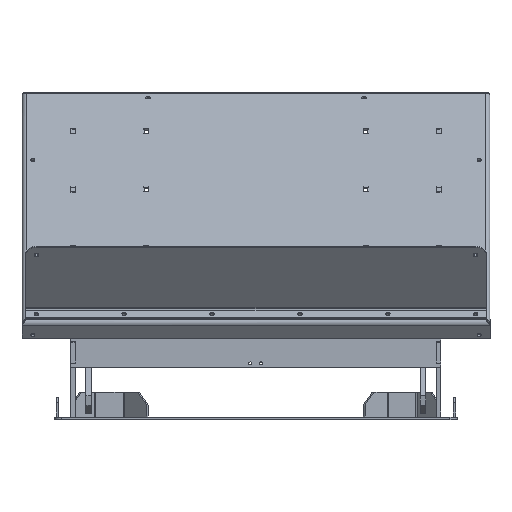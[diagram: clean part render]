
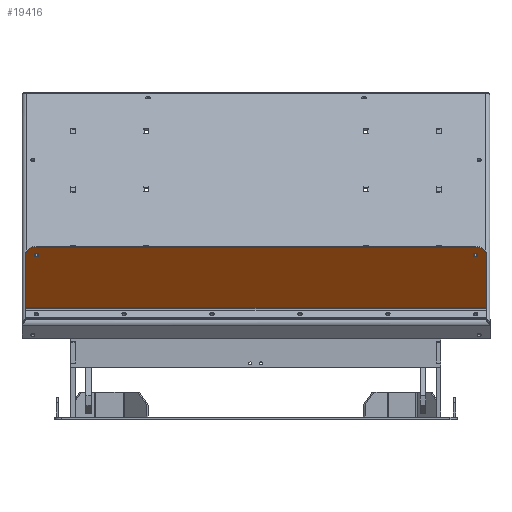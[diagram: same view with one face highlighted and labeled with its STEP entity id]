
A CAD part, left-side view. The second image highlights one B-rep face of the part: STEP entity #19416.
In plain terms, the highlighted planar face has unit normal (-0.766, 0, -0.643) as drawn and (0, 0, 1) by its records, which use the part's own axes.
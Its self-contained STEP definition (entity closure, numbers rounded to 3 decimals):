
#371=FACE_BOUND('',#2958,.T.);
#372=FACE_BOUND('',#2959,.T.);
#729=PLANE('',#21817);
#1735=FACE_OUTER_BOUND('',#2957,.T.);
#2957=EDGE_LOOP('',(#17762,#17763,#17764,#17765,#17766,#17767));
#2958=EDGE_LOOP('',(#17768));
#2959=EDGE_LOOP('',(#17769));
#4505=LINE('',#34054,#6063);
#4511=LINE('',#34070,#6069);
#4516=LINE('',#34087,#6074);
#4517=LINE('',#34089,#6075);
#6063=VECTOR('',#27922,10.);
#6069=VECTOR('',#27938,10.);
#6074=VECTOR('',#27963,10.);
#6075=VECTOR('',#27966,10.);
#7314=CIRCLE('',#21765,6.);
#7316=CIRCLE('',#21768,6.);
#7334=CIRCLE('',#21798,30.);
#7337=CIRCLE('',#21804,30.);
#9210=VERTEX_POINT('',#33970);
#9212=VERTEX_POINT('',#33975);
#9237=VERTEX_POINT('',#34041);
#9238=VERTEX_POINT('',#34042);
#9242=VERTEX_POINT('',#34052);
#9246=VERTEX_POINT('',#34064);
#9247=VERTEX_POINT('',#34068);
#9249=VERTEX_POINT('',#34082);
#12034=EDGE_CURVE('',#9210,#9210,#7314,.T.);
#12036=EDGE_CURVE('',#9212,#9212,#7316,.T.);
#12065=EDGE_CURVE('',#9237,#9238,#7334,.T.);
#12071=EDGE_CURVE('',#9242,#9237,#4505,.T.);
#12076=EDGE_CURVE('',#9246,#9242,#7337,.T.);
#12079=EDGE_CURVE('',#9247,#9246,#4511,.T.);
#12088=EDGE_CURVE('',#9247,#9249,#4516,.T.);
#12089=EDGE_CURVE('',#9238,#9249,#4517,.T.);
#17762=ORIENTED_EDGE('',*,*,#12065,.F.);
#17763=ORIENTED_EDGE('',*,*,#12071,.F.);
#17764=ORIENTED_EDGE('',*,*,#12076,.F.);
#17765=ORIENTED_EDGE('',*,*,#12079,.F.);
#17766=ORIENTED_EDGE('',*,*,#12088,.T.);
#17767=ORIENTED_EDGE('',*,*,#12089,.F.);
#17768=ORIENTED_EDGE('',*,*,#12034,.T.);
#17769=ORIENTED_EDGE('',*,*,#12036,.T.);
#19416=ADVANCED_FACE('',(#1735,#371,#372),#729,.T.);
#21765=AXIS2_PLACEMENT_3D('',#33971,#27835,#27836);
#21768=AXIS2_PLACEMENT_3D('',#33976,#27841,#27842);
#21798=AXIS2_PLACEMENT_3D('',#34043,#27912,#27913);
#21804=AXIS2_PLACEMENT_3D('',#34065,#27932,#27933);
#21817=AXIS2_PLACEMENT_3D('',#34090,#27967,#27968);
#27835=DIRECTION('center_axis',(0.,0.,-1.));
#27836=DIRECTION('ref_axis',(1.,0.,0.));
#27841=DIRECTION('center_axis',(0.,0.,-1.));
#27842=DIRECTION('ref_axis',(1.,0.,0.));
#27912=DIRECTION('center_axis',(0.,0.,-1.));
#27913=DIRECTION('ref_axis',(0.707,0.707,0.));
#27922=DIRECTION('',(1.,0.,0.));
#27932=DIRECTION('center_axis',(0.,0.,-1.));
#27933=DIRECTION('ref_axis',(-0.707,0.707,0.));
#27938=DIRECTION('',(0.,1.,0.));
#27963=DIRECTION('',(1.,0.,0.));
#27966=DIRECTION('',(0.,-1.,0.));
#27967=DIRECTION('center_axis',(0.,0.,1.));
#27968=DIRECTION('ref_axis',(1.,0.,0.));
#33970=CARTESIAN_POINT('',(616.,85.,4.));
#33971=CARTESIAN_POINT('Origin',(610.,85.,4.));
#33975=CARTESIAN_POINT('',(-604.,85.,4.));
#33976=CARTESIAN_POINT('Origin',(-610.,85.,4.));
#34041=CARTESIAN_POINT('',(610.,115.,4.));
#34042=CARTESIAN_POINT('',(640.,85.,4.));
#34043=CARTESIAN_POINT('Origin',(610.,85.,4.));
#34052=CARTESIAN_POINT('',(-610.,115.,4.));
#34054=CARTESIAN_POINT('',(640.,115.,4.));
#34064=CARTESIAN_POINT('',(-640.,85.,4.));
#34065=CARTESIAN_POINT('Origin',(-610.,85.,4.));
#34068=CARTESIAN_POINT('',(-640.,-107.,4.));
#34070=CARTESIAN_POINT('',(-640.,115.,4.));
#34082=CARTESIAN_POINT('',(640.,-107.,4.));
#34087=CARTESIAN_POINT('',(320.,-107.,4.));
#34089=CARTESIAN_POINT('',(640.,-115.,4.));
#34090=CARTESIAN_POINT('Origin',(0.,0.,
4.));
